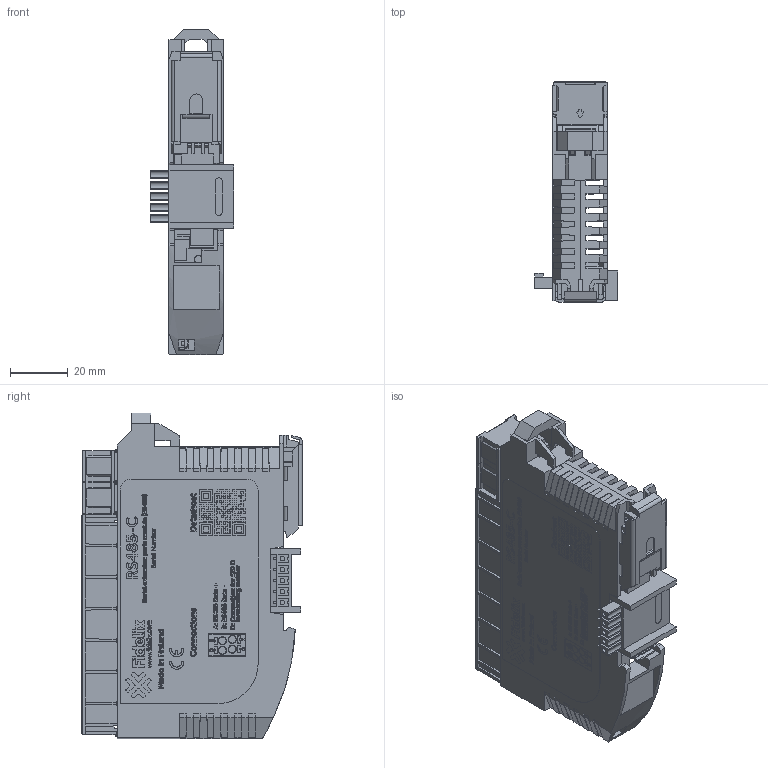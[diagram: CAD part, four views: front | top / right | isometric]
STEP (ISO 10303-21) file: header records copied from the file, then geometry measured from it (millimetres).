
FILE_DESCRIPTION(/* description */ (''),/* implementation_level */ '2;1');
FILE_NAME(/* name */ 'C:/Temp/STEP/FX-RS485-C.step',/* time_stamp */ '2020-04-03T13:47:18+03:00',/* author */ (''),/* organization */ (''),/* preprocessor_version */ 'ST-DEVELOPER v18',/* originating_system */ 'Autodesk Translation Framework v8.12.0.6',/* authorisation */ '');
FILE_SCHEMA (('AUTOMOTIVE_DESIGN { 1 0 10303 214 3 1 1 }'));
Products named in the file (1): FX-RS485-C
Bounding box: 29.2 x 76.6 x 113.3 mm (x, y, z)
Volume: 38435.6 mm3; surface area: 63910.8 mm2
Topology: 314 solids, 317 shells, 6040 faces, 16129 edges, 10760 vertices
Faces by surface type: plane 4852, bspline 822, cylinder 325, cone 24, sphere 9, torus 8
Full cylindrical faces by diameter (mm): 0.62 x1, 1.2 x8, 1.3 x8, 1.6 x10, 2.9 x6
Entity records: 276417 total; most frequent: CARTESIAN_POINT 123894, ORIENTED_EDGE 32062, DIRECTION 25762, EDGE_CURVE 16121, LINE 13462, VECTOR 13462, VERTEX_POINT 10760, EDGE_LOOP 6471
